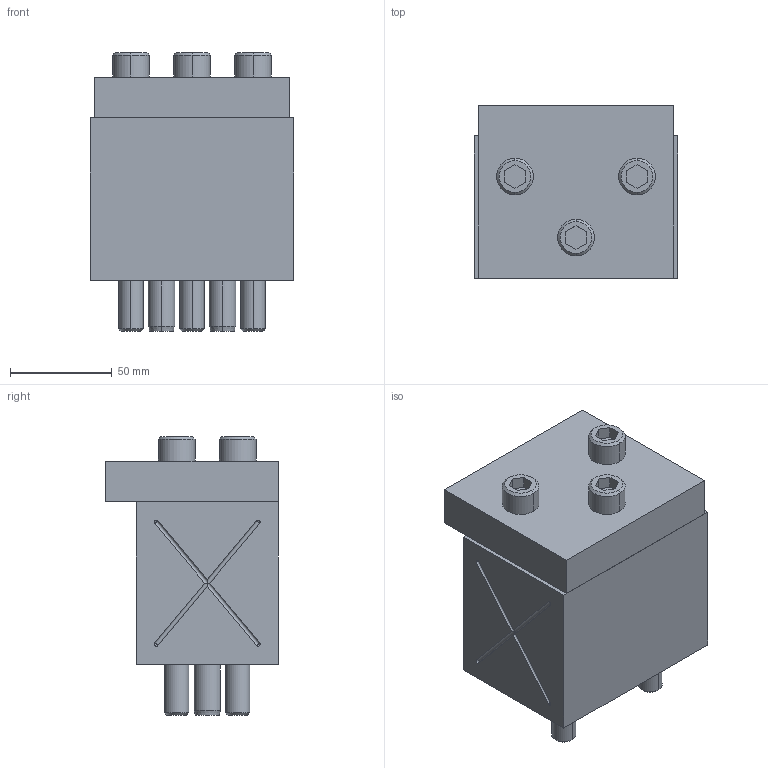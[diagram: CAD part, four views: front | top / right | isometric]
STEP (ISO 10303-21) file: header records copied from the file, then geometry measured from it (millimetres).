
FILE_DESCRIPTION((''),'2;1');
FILE_NAME('','2010-09-29T17:41:24+09:00',('misumi'),(''),'M/STEP i/f 1R2-14','CADmeister v5.1','');
FILE_SCHEMA(('AUTOMOTIVE_DESIGN'));
Length unit declared in the file: millimetre
Products named in the file (1): KEPNZ100-80-20
Bounding box: 100 x 85 x 137 mm (x, y, z)
Volume: 680685.4 mm3; surface area: 113555.8 mm2
Topology: 10 solids, 10 shells, 206 faces, 472 edges, 299 vertices
Faces by surface type: plane 86, cylinder 76, cone 32, revolution 12
Entity records: 8695 total; most frequent: CARTESIAN_POINT 1074, DIRECTION 1062, ORIENTED_EDGE 920, COLOUR_RGB 628, CURVE_STYLE 547, PRESENTATION_STYLE_ASSIGNMENT 537, OVER_RIDING_STYLED_ITEM 527, EDGE_CURVE 460
